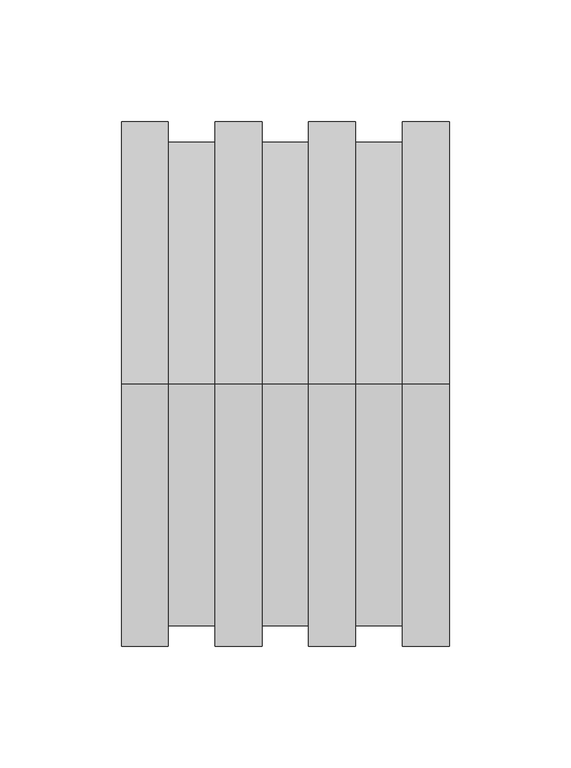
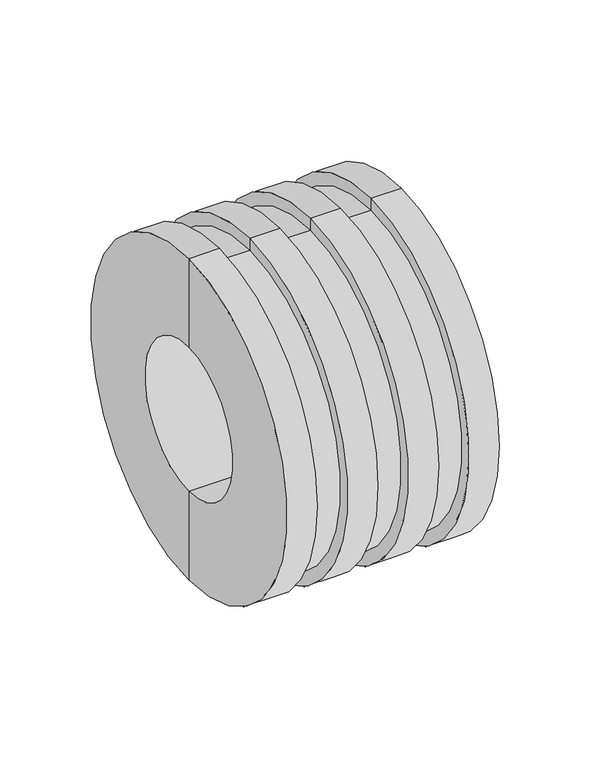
"""IFC4 building model written with IfcOpenShell, lengths in millimetres: pipe fitting geometry, Plumbing_Pipe-Fittings_Plasson_Wastewater-Manhole-Adaptor_37020-477207 : Plumbing_Pipe-Fittings_Plasson_Wastewater-Manhole-Adaptor_37020-477207."""

from ifc_helpers import new_model, si_unit, frame, origin, place, context, project, spatial, polyline, circle_curve, source, transform, mapped, element, save
from ifc_brep_helpers import plane_surface, cylinder_surface, revolved_surface, advanced_brep


def pipe_fitting_6a6b5253(model_context):
    return source(origin(), model_context, "Body", "AdvancedBrep", [
        advanced_brep(
        [(0.0, 0.0, 108.0), (0.0, 0.0, -108.0), (0.0, 0.0, -48.5), (0.0, 0.0, 48.5), (19.2857143, 0.0, 108.0), (19.2857143, 0.0, -108.0), (19.2857143, 0.0, 100.0), (19.2857143, 0.0, -100.0), (38.5714286, 0.0, 100.0), (38.5714286, 0.0, -100.0), (38.5714286, 0.0, 108.0), (38.5714286, 0.0, -108.0), (57.8571429, 0.0, 108.0), (57.8571429, 0.0, -108.0), (57.8571429, 0.0, 100.0), (57.8571429, 0.0, -100.0), (77.1428571, 0.0, 100.0), (77.1428571, 0.0, -100.0), (77.1428571, 0.0, 108.0), (77.1428571, 0.0, -108.0), (96.4285714, 0.0, 108.0), (96.4285714, 0.0, -108.0), (96.4285714, 0.0, 100.0), (96.4285714, 0.0, -100.0), (115.7142857, 0.0, 100.0), (115.7142857, 0.0, -100.0), (115.7142857, 0.0, 108.0), (115.7142857, 0.0, -108.0), (135.0, 0.0, 108.0), (135.0, 0.0, -108.0), (135.0, 0.0, 92.0), (135.0, 0.0, -92.0), (6.5, 0.0, 92.0), (6.5, 0.0, -92.0), (6.5, 0.0, 55.0), (6.5, 0.0, -55.0), (135.0, 0.0, 55.0), (135.0, 0.0, -55.0), (135.0, 0.0, 48.5), (135.0, 0.0, -48.5)],
        [
            (0, 1, circle_curve(frame((0.0, 0.0, 0.0), z_axis=(-1.0, 0.0, 0.0), x_axis=(0.0, 0.0, -1.0)), 108.0)),
            (1, 2),
            (2, 3, circle_curve(frame((0.0, 0.0, 0.0), z_axis=(1.0, 0.0, 0.0), x_axis=(0.0, 0.0, -1.0)), 48.5)),
            (3, 0),
            (1, 0, circle_curve(frame((0.0, 0.0, 0.0), z_axis=(-1.0, 0.0, 0.0), x_axis=(0.0, 0.0, -1.0)), 108.0)),
            (3, 2, circle_curve(frame((0.0, 0.0, 0.0), z_axis=(1.0, 0.0, 0.0), x_axis=(0.0, 0.0, -1.0)), 48.5)),
            (4, 5, circle_curve(frame((19.2857143, 0.0, 0.0), z_axis=(-1.0, 0.0, 0.0), x_axis=(0.0, 0.0, -1.0)), 108.0)),
            (5, 1),
            (0, 4),
            (5, 4, circle_curve(frame((19.2857143, 0.0, 0.0), z_axis=(-1.0, 0.0, 0.0), x_axis=(0.0, 0.0, -1.0)), 108.0)),
            (6, 7, circle_curve(frame((19.2857143, 0.0, 0.0), z_axis=(-1.0, 0.0, 0.0), x_axis=(0.0, 0.0, -1.0)), 100.0)),
            (7, 5),
            (4, 6),
            (7, 6, circle_curve(frame((19.2857143, 0.0, 0.0), z_axis=(-1.0, 0.0, 0.0), x_axis=(0.0, 0.0, -1.0)), 100.0)),
            (8, 9, circle_curve(frame((38.5714286, 0.0, 0.0), z_axis=(-1.0, 0.0, 0.0), x_axis=(0.0, 0.0, -1.0)), 100.0)),
            (9, 7),
            (6, 8),
            (9, 8, circle_curve(frame((38.5714286, 0.0, 0.0), z_axis=(-1.0, 0.0, 0.0), x_axis=(0.0, 0.0, -1.0)), 100.0)),
            (10, 11, circle_curve(frame((38.5714286, 0.0, 0.0), z_axis=(-1.0, 0.0, 0.0), x_axis=(0.0, 0.0, -1.0)), 108.0)),
            (11, 9),
            (8, 10),
            (11, 10, circle_curve(frame((38.5714286, 0.0, 0.0), z_axis=(-1.0, 0.0, 0.0), x_axis=(0.0, 0.0, -1.0)), 108.0)),
            (12, 13, circle_curve(frame((57.8571429, 0.0, 0.0), z_axis=(-1.0, 0.0, 0.0), x_axis=(0.0, 0.0, -1.0)), 108.0)),
            (13, 11),
            (10, 12),
            (13, 12, circle_curve(frame((57.8571429, 0.0, 0.0), z_axis=(-1.0, 0.0, 0.0), x_axis=(0.0, 0.0, -1.0)), 108.0)),
            (14, 15, circle_curve(frame((57.8571429, 0.0, 0.0), z_axis=(-1.0, 0.0, 0.0), x_axis=(0.0, 0.0, -1.0)), 100.0)),
            (15, 13),
            (12, 14),
            (15, 14, circle_curve(frame((57.8571429, 0.0, 0.0), z_axis=(-1.0, 0.0, 0.0), x_axis=(0.0, 0.0, -1.0)), 100.0)),
            (16, 17, circle_curve(frame((77.1428571, 0.0, 0.0), z_axis=(-1.0, 0.0, 0.0), x_axis=(0.0, 0.0, -1.0)), 100.0)),
            (17, 15),
            (14, 16),
            (17, 16, circle_curve(frame((77.1428571, 0.0, 0.0), z_axis=(-1.0, 0.0, 0.0), x_axis=(0.0, 0.0, -1.0)), 100.0)),
            (18, 19, circle_curve(frame((77.1428571, 0.0, 0.0), z_axis=(-1.0, 0.0, 0.0), x_axis=(0.0, 0.0, -1.0)), 108.0)),
            (19, 17),
            (16, 18),
            (19, 18, circle_curve(frame((77.1428571, 0.0, 0.0), z_axis=(-1.0, 0.0, 0.0), x_axis=(0.0, 0.0, -1.0)), 108.0)),
            (20, 21, circle_curve(frame((96.4285714, 0.0, 0.0), z_axis=(-1.0, 0.0, 0.0), x_axis=(0.0, 0.0, -1.0)), 108.0)),
            (21, 19),
            (18, 20),
            (21, 20, circle_curve(frame((96.4285714, 0.0, 0.0), z_axis=(-1.0, 0.0, 0.0), x_axis=(0.0, 0.0, -1.0)), 108.0)),
            (22, 23, circle_curve(frame((96.4285714, 0.0, 0.0), z_axis=(-1.0, 0.0, 0.0), x_axis=(0.0, 0.0, -1.0)), 100.0)),
            (23, 21),
            (20, 22),
            (23, 22, circle_curve(frame((96.4285714, 0.0, 0.0), z_axis=(-1.0, 0.0, 0.0), x_axis=(0.0, 0.0, -1.0)), 100.0)),
            (24, 25, circle_curve(frame((115.7142857, 0.0, 0.0), z_axis=(-1.0, 0.0, 0.0), x_axis=(0.0, 0.0, -1.0)), 100.0)),
            (25, 23),
            (22, 24),
            (25, 24, circle_curve(frame((115.7142857, 0.0, 0.0), z_axis=(-1.0, 0.0, 0.0), x_axis=(0.0, 0.0, -1.0)), 100.0)),
            (26, 27, circle_curve(frame((115.7142857, 0.0, 0.0), z_axis=(-1.0, 0.0, 0.0), x_axis=(0.0, 0.0, -1.0)), 108.0)),
            (27, 25),
            (24, 26),
            (27, 26, circle_curve(frame((115.7142857, 0.0, 0.0), z_axis=(-1.0, 0.0, 0.0), x_axis=(0.0, 0.0, -1.0)), 108.0)),
            (28, 29, circle_curve(frame((135.0, 0.0, 0.0), z_axis=(-1.0, 0.0, 0.0), x_axis=(0.0, 0.0, -1.0)), 108.0)),
            (29, 27),
            (26, 28),
            (29, 28, circle_curve(frame((135.0, 0.0, 0.0), z_axis=(-1.0, 0.0, 0.0), x_axis=(0.0, 0.0, -1.0)), 108.0)),
            (30, 31, circle_curve(frame((135.0, 0.0, 0.0), z_axis=(-1.0, 0.0, 0.0), x_axis=(0.0, 0.0, -1.0)), 92.0)),
            (31, 29),
            (28, 30),
            (31, 30, circle_curve(frame((135.0, 0.0, 0.0), z_axis=(-1.0, 0.0, 0.0), x_axis=(0.0, 0.0, -1.0)), 92.0)),
            (32, 33, circle_curve(frame((6.5, 0.0, 0.0), z_axis=(-1.0, 0.0, 0.0), x_axis=(0.0, 0.0, -1.0)), 92.0)),
            (33, 31),
            (30, 32),
            (33, 32, circle_curve(frame((6.5, 0.0, 0.0), z_axis=(-1.0, 0.0, 0.0), x_axis=(0.0, 0.0, -1.0)), 92.0)),
            (34, 35, circle_curve(frame((6.5, 0.0, 0.0), z_axis=(-1.0, 0.0, 0.0), x_axis=(0.0, 0.0, -1.0)), 55.0)),
            (35, 33),
            (32, 34),
            (35, 34, circle_curve(frame((6.5, 0.0, 0.0), z_axis=(-1.0, 0.0, 0.0), x_axis=(0.0, 0.0, -1.0)), 55.0)),
            (36, 37, circle_curve(frame((135.0, 0.0, 0.0), z_axis=(-1.0, 0.0, 0.0), x_axis=(0.0, 0.0, -1.0)), 55.0)),
            (37, 35),
            (34, 36),
            (37, 36, circle_curve(frame((135.0, 0.0, 0.0), z_axis=(-1.0, 0.0, 0.0), x_axis=(0.0, 0.0, -1.0)), 55.0)),
            (38, 39, circle_curve(frame((135.0, 0.0, 0.0), z_axis=(-1.0, 0.0, 0.0), x_axis=(0.0, 0.0, -1.0)), 48.5)),
            (39, 37),
            (36, 38),
            (39, 38, circle_curve(frame((135.0, 0.0, 0.0), z_axis=(-1.0, 0.0, 0.0), x_axis=(0.0, 0.0, -1.0)), 48.5)),
            (2, 39),
            (38, 3),
        ],
        [
            plane_surface(frame((0.0, 0.0, 0.0), z_axis=(-1.0, 0.0, 0.0), x_axis=(0.0, 0.0, -1.0))),
            cylinder_surface(frame((-5.0, 0.0, 0.0), z_axis=(1.0, 0.0, 0.0), x_axis=(0.0, 0.0, -1.0)), 108.0),
            plane_surface(frame((19.2857143, 0.0, 0.0), z_axis=(1.0, 0.0, 0.0), x_axis=(0.0, 0.0, -1.0))),
            cylinder_surface(frame((-5.0, 0.0, 0.0), z_axis=(1.0, 0.0, 0.0), x_axis=(0.0, 0.0, -1.0)), 100.0),
            plane_surface(frame((38.5714286, 0.0, 0.0), z_axis=(-1.0, 0.0, 0.0), x_axis=(0.0, 0.0, -1.0))),
            plane_surface(frame((57.8571429, 0.0, 0.0), z_axis=(1.0, 0.0, 0.0), x_axis=(0.0, 0.0, -1.0))),
            plane_surface(frame((77.1428571, 0.0, 0.0), z_axis=(-1.0, 0.0, 0.0), x_axis=(0.0, 0.0, -1.0))),
            plane_surface(frame((96.4285714, 0.0, 0.0), z_axis=(1.0, 0.0, 0.0), x_axis=(0.0, 0.0, -1.0))),
            plane_surface(frame((115.7142857, 0.0, 0.0), z_axis=(-1.0, 0.0, 0.0), x_axis=(0.0, 0.0, -1.0))),
            plane_surface(frame((135.0, 0.0, 0.0), z_axis=(1.0, 0.0, 0.0), x_axis=(0.0, 0.0, -1.0))),
            revolved_surface(polyline([(135.0, 0.0, -92.0), (6.5, 0.0, -92.0)]), (-5.0, 0.0, 0.0), (1.0, 0.0, 0.0)),
            plane_surface(frame((6.5, 0.0, 0.0), z_axis=(1.0, 0.0, 0.0), x_axis=(0.0, 0.0, -1.0))),
            cylinder_surface(frame((-5.0, 0.0, 0.0), z_axis=(1.0, 0.0, 0.0), x_axis=(0.0, 0.0, -1.0)), 55.0),
            revolved_surface(polyline([(135.0, 0.0, -48.5), (0.0, 0.0, -48.5)]), (-5.0, 0.0, 0.0), (1.0, 0.0, 0.0)),
        ],
        [
            (0, [[1, 2, 3, 4]]),
            (0, [[5, -4, 6, -2]]),
            (1, [[7, 8, -1, 9]]),
            (1, [[10, -9, -5, -8]]),
            (2, [[11, 12, -7, 13]]),
            (2, [[14, -13, -10, -12]]),
            (3, [[15, 16, -11, 17]]),
            (3, [[18, -17, -14, -16]]),
            (4, [[19, 20, -15, 21]]),
            (4, [[22, -21, -18, -20]]),
            (1, [[23, 24, -19, 25]]),
            (1, [[26, -25, -22, -24]]),
            (5, [[27, 28, -23, 29]]),
            (5, [[30, -29, -26, -28]]),
            (3, [[31, 32, -27, 33]]),
            (3, [[34, -33, -30, -32]]),
            (6, [[35, 36, -31, 37]]),
            (6, [[38, -37, -34, -36]]),
            (1, [[39, 40, -35, 41]]),
            (1, [[42, -41, -38, -40]]),
            (7, [[43, 44, -39, 45]]),
            (7, [[46, -45, -42, -44]]),
            (3, [[47, 48, -43, 49]]),
            (3, [[50, -49, -46, -48]]),
            (8, [[51, 52, -47, 53]]),
            (8, [[54, -53, -50, -52]]),
            (1, [[55, 56, -51, 57]]),
            (1, [[58, -57, -54, -56]]),
            (9, [[59, 60, -55, 61]]),
            (9, [[62, -61, -58, -60]]),
            (10, [[63, 64, -59, 65]]),
            (10, [[66, -65, -62, -64]]),
            (11, [[67, 68, -63, 69]]),
            (11, [[70, -69, -66, -68]]),
            (12, [[71, 72, -67, 73]]),
            (12, [[74, -73, -70, -72]]),
            (9, [[75, 76, -71, 77]]),
            (9, [[78, -77, -74, -76]]),
            (13, [[-3, 79, -75, 80]]),
            (13, [[-6, -80, -78, -79]]),
        ],
    ),
    ])


if __name__ == "__main__":
    model = new_model("IFC4")
    model_context = context("Model", 3, world=origin())
    ifc_project = project(units=[si_unit("LENGTHUNIT", "METRE", prefix="MILLI")], contexts=[model_context])
    site = spatial("IfcSite", under=ifc_project)
    building = spatial("IfcBuilding", under=site)
    placement = place(None, origin())
    pipe_fitting_shape = pipe_fitting_6a6b5253(model_context)
    element("IfcPipeFitting", 1, ObjectType="Plumbing_Pipe-Fittings_Plasson_Wastewater-Manhole-Adaptor_37020-477207 : Plumbing_Pipe-Fittings_Plasson_Wastewater-Manhole-Adaptor_37020-477207", at=placement, inside=building, context=model_context, shape_type="MappedRepresentation", body=[
        mapped(pipe_fitting_shape, transform((0.0, 0.0, 0.0), x_axis=(1.0, 0.0, 0.0), y_axis=(0.0, 1.0, 0.0), z_axis=(0.0, 0.0, 1.0))),
    ])
    save(model, "model.ifc")
